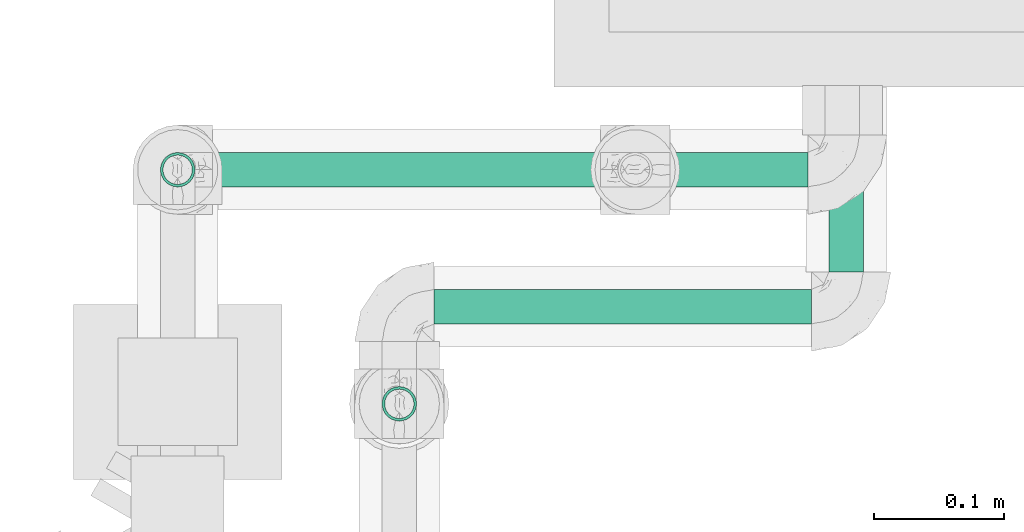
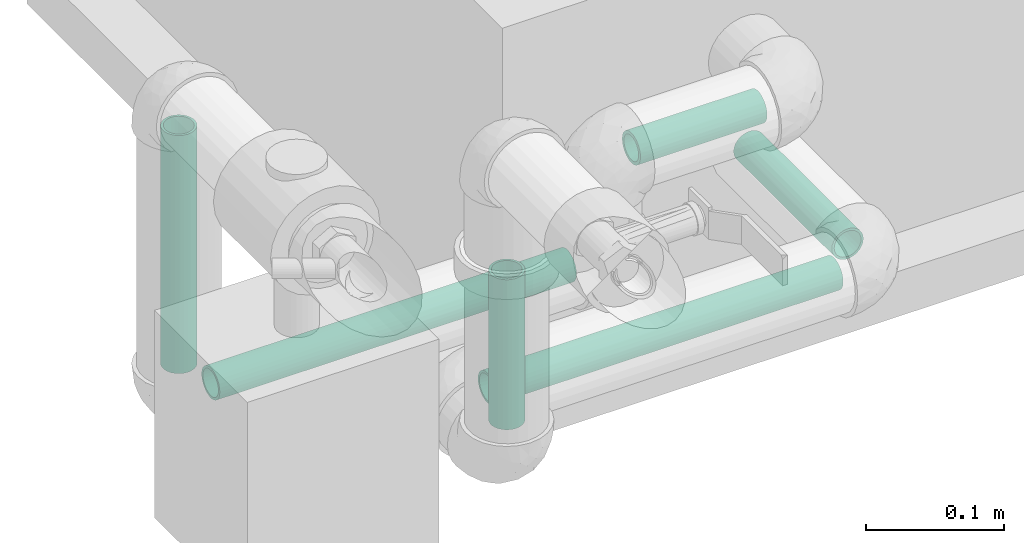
# One storey, part 6 of 13: 6 flow segments.
"""IFC2X3 building model written with IfcOpenShell, lengths in millimetres."""

from ifc_helpers import new_model, entity, si_unit, converted_unit, derived_unit, direction, frame, origin_with_axes, origin_2d_with_axis, place, context, subcontext, project, spatial, hollow_circle, extrude, source, transform, mapped, type_object, element, save


model = new_model("IFC2X3")

# Units and contexts
model_context = context("Model", 3, precision=0.01, world=frame((0.0, 4.29681676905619e-09, 0.0)), true_north=direction((4.01073788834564e-13, 1.0)))
plan_context = context("Plan", 3, precision=0.01, world=frame((0.0, 4.29681676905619e-09, 0.0)), true_north=direction((4.01073788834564e-13, 1.0)))
body_context = subcontext(model_context, "Body", "Model", "MODEL_VIEW")
ifc_project = project(units=[converted_unit("PLANEANGLEUNIT", "DEGREE", entity("IfcPositiveLengthMeasure", 0.0174532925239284), si_unit("PLANEANGLEUNIT", "RADIAN"), dimensions=[0, 0, 0, 0, 0, 0, 0]), si_unit("AREAUNIT", "SQUARE_METRE"), si_unit("LENGTHUNIT", "METRE", prefix="MILLI"), si_unit("MASSUNIT", "GRAM", prefix="KILO"), si_unit("POWERUNIT", "WATT"), si_unit("PRESSUREUNIT", "PASCAL"), si_unit("FORCEUNIT", "NEWTON", prefix="KILO"), si_unit("ELECTRICVOLTAGEUNIT", "VOLT"), si_unit("ELECTRICCURRENTUNIT", "AMPERE"), si_unit("THERMODYNAMICTEMPERATUREUNIT", "DEGREE_CELSIUS"), si_unit("TIMEUNIT", "SECOND"), si_unit("VOLUMEUNIT", "CUBIC_METRE"), derived_unit("LINEARVELOCITYUNIT", [(si_unit("LENGTHUNIT", "METRE"), 1), (si_unit("TIMEUNIT", "SECOND"), -1)]), derived_unit("VOLUMETRICFLOWRATEUNIT", [(si_unit("VOLUMEUNIT", "CUBIC_METRE"), 1), (si_unit("TIMEUNIT", "SECOND"), -1)]), derived_unit("THERMALTRANSMITTANCEUNIT", [(si_unit("POWERUNIT", "WATT"), 1), (si_unit("THERMODYNAMICTEMPERATUREUNIT", "KELVIN"), -1), (si_unit("AREAUNIT", "SQUARE_METRE"), -1)]), derived_unit("SOUNDPRESSUREUNIT", [(si_unit("PRESSUREUNIT", "PASCAL"), 1)])], contexts=[model_context, plan_context])

# Site, building, storey
site_placement = place(None, frame((0.0, -4.29681676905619e-09, 0.0), z_axis=(0.0, 0.0, 1.0), x_axis=(1.0, 0.0, 0.0)))
site = spatial("IfcSite", under=ifc_project, at=site_placement, Name="ENGM", CompositionType="ELEMENT")
building_placement = place(site_placement, frame((0.0, 4.29681676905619e-09, 0.0), z_axis=(0.0, 0.0, 1.0), x_axis=(1.0, 0.0, 0.0)))
building = spatial("IfcBuilding", under=site, at=building_placement, Name="TI", CompositionType="ELEMENT")
storey_placement = place(building_placement, frame((0.0, 0.0, 210900.0), z_axis=(0.0, 0.0, 1.0), x_axis=(1.0, 0.0, 0.0)))
storey = spatial("IfcBuildingStorey", under=building, at=storey_placement, Name="Nivå F", CompositionType="ELEMENT", Elevation=210900.0)

# Flow segments
pipe_segment_type = type_object("IfcPipeSegmentType", Name="Stålrør normaltykke", PredefinedType="RIGIDSEGMENT")
shared_shape_1 = source(origin_with_axes(), body_context, "Body", "SweptSolid", [
    extrude(hollow_circle(Radius=13.3, WallThickness=2.0, at=origin_2d_with_axis()), frame((0.0, 0.0, 0.0), z_axis=(1.0, 0.0, 0.0), x_axis=(0.0, 1.0, 0.0)), (0.0, 0.0, 1.0), 133.2),
])
flow_segment_1_placement = place(storey_placement, frame((610257.26164, 691419.90405, 2634.79999999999), z_axis=(1.0, 0.0, 0.0), x_axis=(0.0, 0.0, -1.0)))
element("IfcFlowSegment", 1, at=flow_segment_1_placement, inside=storey, type_object=pipe_segment_type, Name="Stålrør normaltykke", context=body_context, shape_type="MappedRepresentation", body=[
    mapped(shared_shape_1, transform((0.0, 0.0, 0.0), scale=1.0)),
])
shared_shape_2 = source(origin_with_axes(), body_context, "Body", "SweptSolid", [
    extrude(hollow_circle(Radius=13.3, WallThickness=2.0, at=origin_2d_with_axis()), frame((0.0, 0.0, 0.0), z_axis=(1.0, 0.0, 0.0), x_axis=(0.0, 1.0, 0.0)), (0.0, 0.0, 1.0), 291.4),
])
flow_segment_2_placement = place(storey_placement, frame((610284.06164, 691494.90405, 2475.0), z_axis=(0.0, 0.0, 1.0), x_axis=(1.0, 0.0, 0.0)))
element("IfcFlowSegment", 2, at=flow_segment_2_placement, inside=storey, type_object=pipe_segment_type, Name="Stålrør normaltykke", context=body_context, shape_type="MappedRepresentation", body=[
    mapped(shared_shape_2, transform((0.0, 0.0, 0.0), scale=1.0)),
])
shared_shape_3 = source(origin_with_axes(), body_context, "Body", "SweptSolid", [
    extrude(hollow_circle(Radius=13.3, WallThickness=2.0, at=origin_2d_with_axis()), frame((0.0, 0.0, 0.0), z_axis=(1.0, 0.0, 0.0), x_axis=(0.0, 1.0, 0.0)), (0.0, 0.0, 1.0), 142.9),
])
flow_segment_3_placement = place(storey_placement, frame((610602.26164, 691521.70405, 2475.0), z_axis=(0.0, 0.0, 1.0), x_axis=(0.0, 1.0, 0.0)))
element("IfcFlowSegment", 3, at=flow_segment_3_placement, inside=storey, type_object=pipe_segment_type, Name="Stålrør normaltykke", context=body_context, shape_type="MappedRepresentation", body=[
    mapped(shared_shape_3, transform((0.0, 0.0, 0.0), scale=1.0)),
])
shared_shape_4 = source(origin_with_axes(), body_context, "Body", "SweptSolid", [
    extrude(hollow_circle(Radius=13.3, WallThickness=2.0, at=origin_2d_with_axis()), frame((0.0, 0.0, 0.0), z_axis=(1.0, 0.0, 0.0), x_axis=(0.0, 1.0, 0.0)), (0.0, 0.0, 1.0), 211.4),
])
flow_segment_4_placement = place(storey_placement, frame((610086.18538, 691600.60738, 2713.20000000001), z_axis=(1.0, 0.0, 0.0), x_axis=(0.0, 0.0, -1.0)))
element("IfcFlowSegment", 4, at=flow_segment_4_placement, inside=storey, type_object=pipe_segment_type, Name="Stålrør normaltykke", context=body_context, shape_type="MappedRepresentation", body=[
    mapped(shared_shape_4, transform((0.0, 0.0, 0.0), scale=1.0)),
])
shared_shape_5 = source(origin_with_axes(), body_context, "Body", "SweptSolid", [
    extrude(hollow_circle(Radius=13.3, WallThickness=2.0, at=origin_2d_with_axis()), frame((0.0, 0.0, 0.0), z_axis=(1.0, 0.0, 0.0), x_axis=(0.0, 1.0, 0.0)), (0.0, 0.0, 1.0), 299.6),
])
flow_segment_5_placement = place(storey_placement, frame((610112.98538, 691600.60738, 2475.0), z_axis=(0.0, 0.0, 1.0), x_axis=(1.0, 0.0, 0.0)))
element("IfcFlowSegment", 5, at=flow_segment_5_placement, inside=storey, type_object=pipe_segment_type, Name="Stålrør normaltykke", context=body_context, shape_type="MappedRepresentation", body=[
    mapped(shared_shape_5, transform((0.0, 0.0, 0.0), scale=1.0)),
])
shared_shape_6 = source(origin_with_axes(), body_context, "Body", "SweptSolid", [
    extrude(hollow_circle(Radius=10.0, WallThickness=2.0, at=origin_2d_with_axis()), frame((0.0, 0.0, 0.0), z_axis=(1.0, 0.0, 0.0), x_axis=(0.0, 1.0, 0.0)), (0.0, 0.0, 1.0), 106.4),
])
flow_segment_6_placement = place(storey_placement, frame((610466.18538, 691600.60738, 2560.0), z_axis=(0.0, 0.0, 1.0), x_axis=(1.0, 0.0, 0.0)))
element("IfcFlowSegment", 6, at=flow_segment_6_placement, inside=storey, type_object=pipe_segment_type, Name="Stålrør normaltykke", context=body_context, shape_type="MappedRepresentation", body=[
    mapped(shared_shape_6, transform((0.0, 0.0, 0.0), scale=1.0, scale2=1.335, scale3=1.335, uniform=False)),
])

save(model, "model.ifc")
